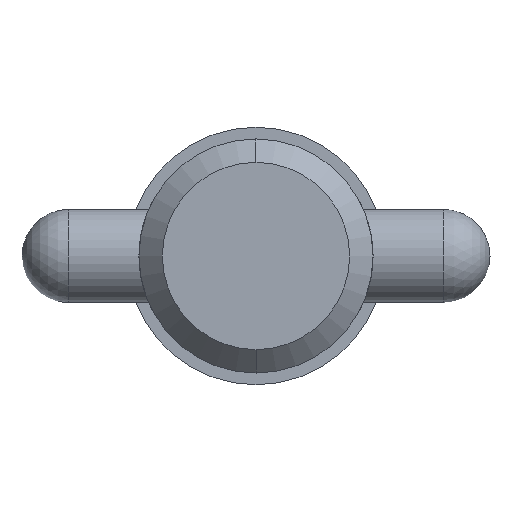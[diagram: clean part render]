
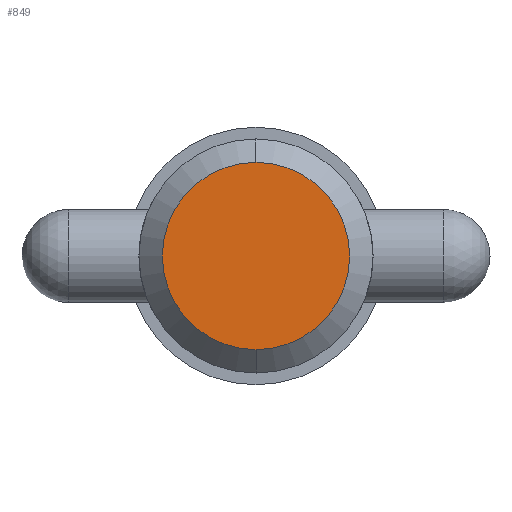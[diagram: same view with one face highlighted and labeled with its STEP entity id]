
A CAD part, left-side view. The second image highlights one B-rep face of the part: STEP entity #849.
In plain terms, the highlighted planar face has unit normal (-1, 0, 0).
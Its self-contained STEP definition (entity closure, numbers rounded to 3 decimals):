
#49 = CIRCLE ( 'NONE', #176, 6.352 ) ;
#78 = CIRCLE ( 'NONE', #918, 6.352 ) ;
#98 = CARTESIAN_POINT ( 'NONE',  ( 0., 0., 0. ) ) ;
#157 = DIRECTION ( 'NONE',  ( 0., 0., -1. ) ) ;
#176 = AXIS2_PLACEMENT_3D ( 'NONE', #809, #321, #476 ) ;
#182 = PLANE ( 'NONE',  #721 ) ;
#222 = ORIENTED_EDGE ( 'NONE', *, *, #797, .F. ) ;
#265 = VERTEX_POINT ( 'NONE', #1034 ) ;
#267 = DIRECTION ( 'NONE',  ( -1., 0., 0. ) ) ;
#305 = DIRECTION ( 'NONE',  ( 1., 0., 0. ) ) ;
#321 = DIRECTION ( 'NONE',  ( 1., 0., 0. ) ) ;
#390 = CARTESIAN_POINT ( 'NONE',  ( 0., 0., -6.352 ) ) ;
#476 = DIRECTION ( 'NONE',  ( 0., 0., -1. ) ) ;
#495 = ORIENTED_EDGE ( 'NONE', *, *, #813, .F. ) ;
#496 = DIRECTION ( 'NONE',  ( 0., 0., 1. ) ) ;
#567 = CARTESIAN_POINT ( 'NONE',  ( 0., 0., 0. ) ) ;
#674 = FACE_OUTER_BOUND ( 'NONE', #785, .T. ) ;
#721 = AXIS2_PLACEMENT_3D ( 'NONE', #98, #267, #496 ) ;
#733 = VERTEX_POINT ( 'NONE', #390 ) ;
#785 = EDGE_LOOP ( 'NONE', ( #495, #222 ) ) ;
#797 = EDGE_CURVE ( 'NONE', #265, #733, #49, .T. ) ;
#809 = CARTESIAN_POINT ( 'NONE',  ( 0., 0., 0. ) ) ;
#813 = EDGE_CURVE ( 'NONE', #733, #265, #78, .T. ) ;
#849 = ADVANCED_FACE ( 'NONE', ( #674 ), #182, .T. ) ;
#918 = AXIS2_PLACEMENT_3D ( 'NONE', #567, #305, #157 ) ;
#1034 = CARTESIAN_POINT ( 'NONE',  ( 0., 0., 6.352 ) ) ;
